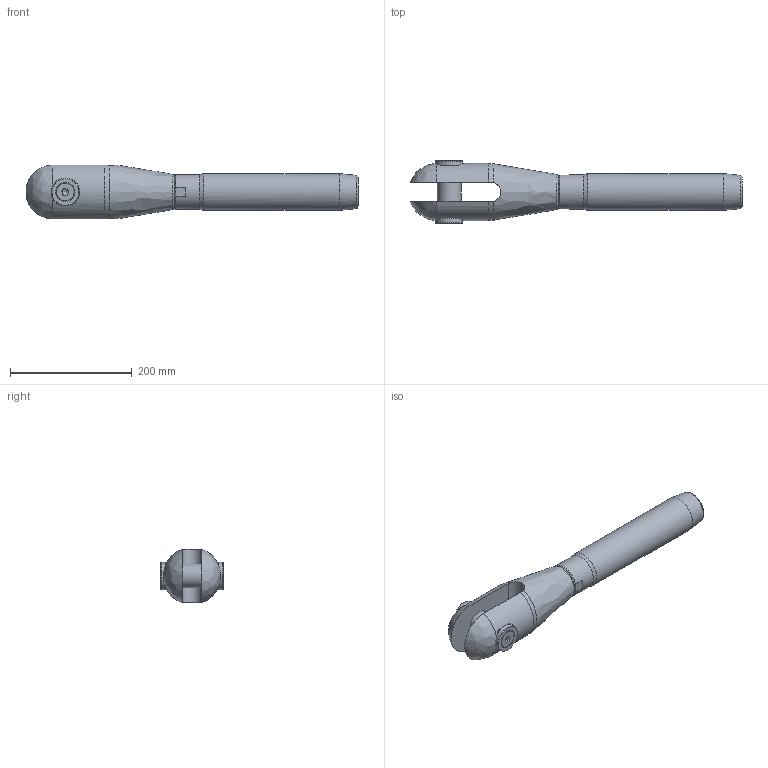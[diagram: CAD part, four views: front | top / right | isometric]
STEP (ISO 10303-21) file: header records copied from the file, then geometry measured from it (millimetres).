
FILE_DESCRIPTION(/* description */ (''),/* implementation_level */ '2;1');
FILE_NAME(/* name */ 'MAC-R 28_1,4418',/* time_stamp */ '2023-05-23T17:52:15+02:00',/* author */ (''),/* organization */ (''),/* preprocessor_version */ 'ST-DEVELOPER v16.5',/* originating_system */ 'Rhino 7.22',/* authorisation */ '');
FILE_SCHEMA (('CONFIG_CONTROL_DESIGN'));
Length unit declared in the file: millimetre
Products named in the file (1): Document
Bounding box: 546.19 x 102.59 x 88.69 mm (x, y, z)
Volume: 1830269.8 mm3; surface area: 196554.5 mm2
Topology: 7 solids, 7 shells, 87 faces, 245 edges, 171 vertices
Faces by surface type: plane 36, bspline 27, cylinder 24
Full cylindrical faces by diameter (mm): 13.835 x2, 16 x2, 17 x2, 29.01 x2, 38.752 x1, 39 x1, 41 x2, 42 x1, 45 x2, 57.2 x1, 60.5 x1
Entity records: 3531 total; most frequent: CARTESIAN_POINT 1975, ORIENTED_EDGE 480, EDGE_CURVE 240, VERTEX_POINT 171, EDGE_LOOP 99, B_SPLINE_CURVE_WITH_KNOTS 96, ADVANCED_FACE 87, FACE_OUTER_BOUND 87
